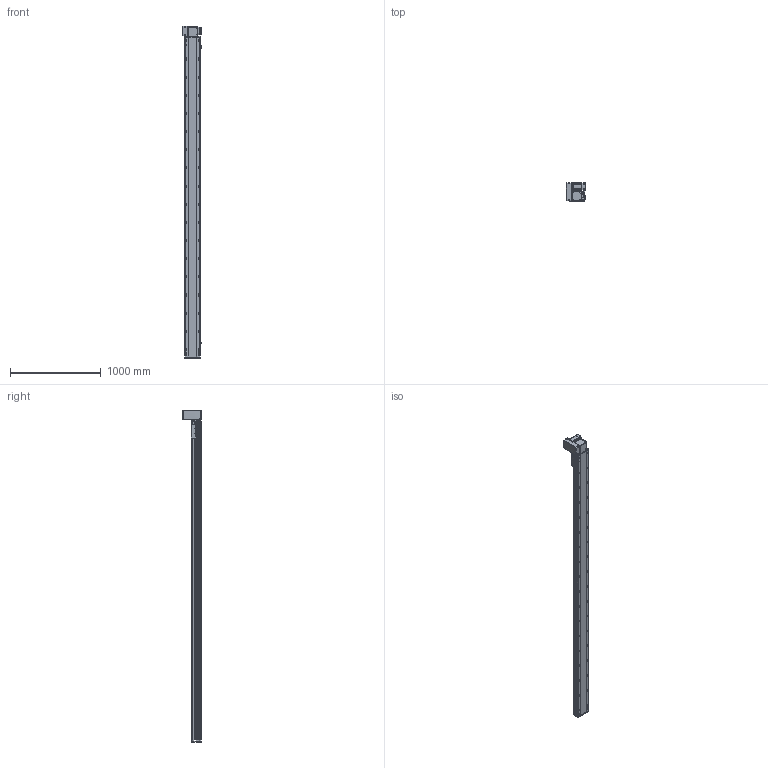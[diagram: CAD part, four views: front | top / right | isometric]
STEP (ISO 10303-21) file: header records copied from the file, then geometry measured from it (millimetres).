
FILE_DESCRIPTION (( 'STEP AP214' ), '1' );
FILE_NAME ('RTB17S-XX-3250-LW-M75-C4.STEP', '2025-12-12T01:21:35', ( '' ), ( '' ), 'SwSTEP 2.0', 'SolidWorks 2018', '' );
FILE_SCHEMA (( 'AUTOMOTIVE_DESIGN' ));
Length unit declared in the file: millimetre
Products named in the file (15): RTB22S-GY-005P^RTB17S-LW-々湍釱蚾饜-750W_RTB17S-XX-XX-LW-M75-C4; RTB17S-L-007奻裔^RTB17S-XX-XX-LW-M75-C4; RTB22S-GY-018P^RTB17S-LW-々湍釱蚾饜-750W_RTB17S-XX-XX-LW-M75-C4; EE672^RTB17S-XX-XX-LW-M75-C4; RTB22S-GY-008-M75--萇儂啣^RTB17S-LW-々湍釱蚾饜-750W_RTB17S-XX-XX-LW-M75-C4; RTB17S-LW-々湍釱蚾饜-750W^RTB17S-XX-XX-LW-M75-C4; RTH13-BL-012覜茼え俋离^RTB17S-賑釱_RTB17S-XX-XX-LW-M75-C4; RTB17S-L-014-T20-P75--々湍釱^RTB17S-LW-々湍釱蚾饜-750W_RTB17S-XX-XX-LW-M75-C4; RTB17S-L-004-賑釱^RTB17S-賑釱_RTB17S-XX-XX-LW-M75-C4; RTB22S-GY-017P^RTB17S-LW-々湍釱蚾饜-750W_RTB17S-XX-XX-LW-M75-C4; RTB17S-L-001-耜醱啣^RTB17S-XX-XX-LW-M75-C4; RTB17S-XX-3250-LW-M75-C4; RTB17S-賑釱^RTB17S-XX-XX-LW-M75-C4; RTB17-R-011菁釱^RTB17S-XX-XX-LW-M75-C4; 750W萇儂^RTB17S-XX-XX-LW-M75-C4
Assembly tree (17 placements, depth 3):
  RTB17S-XX-3250-LW-M75-C4
    RTB17-R-011菁釱^RTB17S-XX-XX-LW-M75-C4
    EE672^RTB17S-XX-XX-LW-M75-C4  x3
    RTB17S-L-001-耜醱啣^RTB17S-XX-XX-LW-M75-C4
    RTB17S-賑釱^RTB17S-XX-XX-LW-M75-C4
      RTB17S-L-004-賑釱^RTB17S-賑釱_RTB17S-XX-XX-LW-M75-C4
      RTH13-BL-012覜茼え俋离^RTB17S-賑釱_RTB17S-XX-XX-LW-M75-C4
    RTB17S-L-007奻裔^RTB17S-XX-XX-LW-M75-C4
    750W萇儂^RTB17S-XX-XX-LW-M75-C4
    RTB17S-LW-々湍釱蚾饜-750W^RTB17S-XX-XX-LW-M75-C4
      RTB17S-L-014-T20-P75--々湍釱^RTB17S-LW-々湍釱蚾饜-750W_RTB17S-XX-XX-LW-M75-C4
      RTB22S-GY-005P^RTB17S-LW-々湍釱蚾饜-750W_RTB17S-XX-XX-LW-M75-C4
      RTB22S-GY-017P^RTB17S-LW-々湍釱蚾饜-750W_RTB17S-XX-XX-LW-M75-C4  x2
      RTB22S-GY-008-M75--萇儂啣^RTB17S-LW-々湍釱蚾饜-750W_RTB17S-XX-XX-LW-M75-C4
      RTB22S-GY-018P^RTB17S-LW-々湍釱蚾饜-750W_RTB17S-XX-XX-LW-M75-C4
Bounding box: 210.4 x 201.5 x 3657.5 mm (x, y, z)
Volume: 26261004.2 mm3; surface area: 4836458.4 mm2
Topology: 17 solids, 17 shells, 2281 faces, 6430 edges, 4166 vertices
Faces by surface type: plane 994, cylinder 871, bspline 294, cone 110, sphere 8, torus 4
Entity records: 67318 total; most frequent: CARTESIAN_POINT 20094, ORIENTED_EDGE 9704, DIRECTION 8942, EDGE_CURVE 4852, AXIS2_PLACEMENT_3D 3186, VERTEX_POINT 3170, VECTOR 2570, LINE 2570
